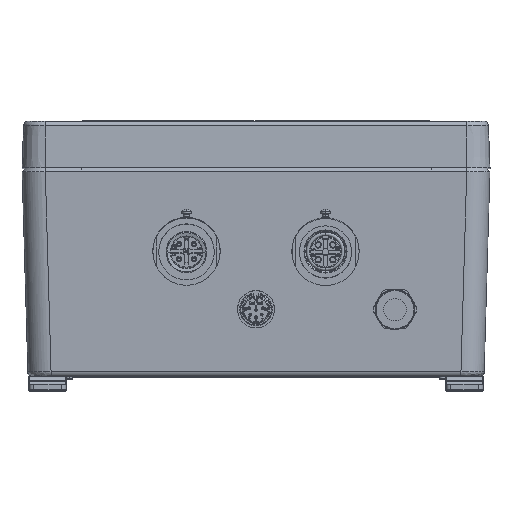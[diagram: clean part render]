
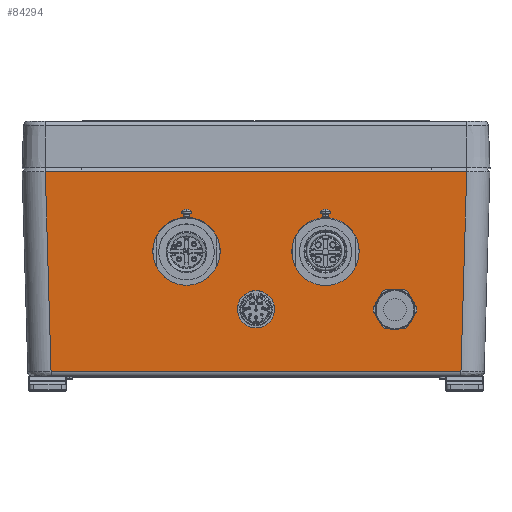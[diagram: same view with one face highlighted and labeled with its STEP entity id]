
A CAD part, top view. The second image highlights one B-rep face of the part: STEP entity #84294.
In plain terms, the highlighted planar face has unit normal (0, -0.029, 1).
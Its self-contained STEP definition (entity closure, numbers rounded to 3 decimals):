
#1652 = EDGE_LOOP ( 'NONE', ( #17042, #16756, #63218 ) ) ;
#4562 = FACE_BOUND ( 'NONE', #86400, .T. ) ;
#4637 = CARTESIAN_POINT ( 'NONE',  ( -39.367, -10.195, 113.637 ) ) ;
#5643 = DIRECTION ( 'NONE',  ( -1., 0., 0. ) ) ;
#5763 = DIRECTION ( 'NONE',  ( 0., -0.029, 1. ) ) ;
#5786 = EDGE_CURVE ( 'NONE', #7430, #57622, #13187, .T. ) ;
#6538 = LINE ( 'NONE', #27111, #33178 ) ;
#7430 = VERTEX_POINT ( 'NONE', #10497 ) ;
#7486 = EDGE_CURVE ( 'NONE', #71403, #98312, #10986, .T. ) ;
#7559 = ORIENTED_EDGE ( 'NONE', *, *, #21964, .F. ) ;
#7845 = ORIENTED_EDGE ( 'NONE', *, *, #7486, .F. ) ;
#10143 = VECTOR ( 'NONE', #5643, 1000. ) ;
#10497 = CARTESIAN_POINT ( 'NONE',  ( -8.415, 49.074, 115.35 ) ) ;
#10571 = DIRECTION ( 'NONE',  ( 0., -0.029, 1. ) ) ;
#10986 = CIRCLE ( 'NONE', #80813, 12.5 ) ;
#12875 = AXIS2_PLACEMENT_3D ( 'NONE', #4637, #81506, #92115 ) ;
#12971 = ORIENTED_EDGE ( 'NONE', *, *, #110350, .T. ) ;
#13033 = DIRECTION ( 'NONE',  ( 0.029, -0.999, -0.029 ) ) ;
#13187 = LINE ( 'NONE', #63081, #10143 ) ;
#14847 = CARTESIAN_POINT ( 'NONE',  ( -190.211, 45.335, 115.242 ) ) ;
#15676 = VERTEX_POINT ( 'NONE', #93986 ) ;
#16303 = DIRECTION ( 'NONE',  ( 0., -0.029, 1. ) ) ;
#16755 = CARTESIAN_POINT ( 'NONE',  ( -10.963, -37.185, 112.858 ) ) ;
#16756 = ORIENTED_EDGE ( 'NONE', *, *, #66028, .F. ) ;
#17042 = ORIENTED_EDGE ( 'NONE', *, *, #107319, .F. ) ;
#20697 = DIRECTION ( 'NONE',  ( 0., 1., 0.029 ) ) ;
#20997 = VERTEX_POINT ( 'NONE', #117326 ) ;
#21964 = EDGE_CURVE ( 'NONE', #103072, #56257, #106690, .T. ) ;
#23929 = FACE_BOUND ( 'NONE', #58270, .T. ) ;
#24027 = CARTESIAN_POINT ( 'NONE',  ( -99.367, -4.148, 113.812 ) ) ;
#24433 = CIRCLE ( 'NONE', #106249, 12.5 ) ;
#25084 = CARTESIAN_POINT ( 'NONE',  ( -99.367, -10.195, 113.637 ) ) ;
#26693 = EDGE_CURVE ( 'NONE', #56257, #103072, #70096, .T. ) ;
#27111 = CARTESIAN_POINT ( 'NONE',  ( -8.355, 51.161, 115.41 ) ) ;
#27173 = DIRECTION ( 'NONE',  ( 0., -0.029, 1. ) ) ;
#27986 = EDGE_CURVE ( 'NONE', #109515, #104769, #54187, .T. ) ;
#29017 = CIRCLE ( 'NONE', #110792, 5.1 ) ;
#32830 = AXIS2_PLACEMENT_3D ( 'NONE', #101876, #16303, #54400 ) ;
#33178 = VECTOR ( 'NONE', #44599, 1000. ) ;
#33350 = AXIS2_PLACEMENT_3D ( 'NONE', #52636, #118832, #52029 ) ;
#33778 = VECTOR ( 'NONE', #99901, 1000. ) ;
#35646 = DIRECTION ( 'NONE',  ( 0., 1., 0.029 ) ) ;
#37062 = DIRECTION ( 'NONE',  ( 0., -0.029, 1. ) ) ;
#38043 = ORIENTED_EDGE ( 'NONE', *, *, #26693, .F. ) ;
#38248 = EDGE_LOOP ( 'NONE', ( #12971, #83584, #49908, #55103 ) ) ;
#40722 = CARTESIAN_POINT ( 'NONE',  ( -129.367, 14.838, 114.361 ) ) ;
#42102 = AXIS2_PLACEMENT_3D ( 'NONE', #64422, #10571, #115424 ) ;
#42312 = CARTESIAN_POINT ( 'NONE',  ( -39.367, -15.293, 113.49 ) ) ;
#42889 = CARTESIAN_POINT ( 'NONE',  ( -129.367, 27.332, 114.722 ) ) ;
#43841 = DIRECTION ( 'NONE',  ( 0., 1., 0.029 ) ) ;
#44599 = DIRECTION ( 'NONE',  ( 0.029, 0.999, 0.029 ) ) ;
#44805 = VERTEX_POINT ( 'NONE', #42312 ) ;
#45627 = VERTEX_POINT ( 'NONE', #68921 ) ;
#47411 = AXIS2_PLACEMENT_3D ( 'NONE', #119416, #5763, #43841 ) ;
#49485 = ORIENTED_EDGE ( 'NONE', *, *, #72806, .F. ) ;
#49908 = ORIENTED_EDGE ( 'NONE', *, *, #94596, .T. ) ;
#52029 = DIRECTION ( 'NONE',  ( -1., 0., 0. ) ) ;
#52636 = CARTESIAN_POINT ( 'NONE',  ( 1.633, 50.873, 115.402 ) ) ;
#52774 = AXIS2_PLACEMENT_3D ( 'NONE', #79387, #37062, #20697 ) ;
#54187 = CIRCLE ( 'NONE', #42102, 12.5 ) ;
#54400 = DIRECTION ( 'NONE',  ( 0., 1., 0.029 ) ) ;
#55103 = ORIENTED_EDGE ( 'NONE', *, *, #120682, .T. ) ;
#55612 = CARTESIAN_POINT ( 'NONE',  ( -129.367, 2.343, 114. ) ) ;
#56257 = VERTEX_POINT ( 'NONE', #24027 ) ;
#57423 = VERTEX_POINT ( 'NONE', #104506 ) ;
#57622 = VERTEX_POINT ( 'NONE', #115393 ) ;
#58270 = EDGE_LOOP ( 'NONE', ( #7845, #92641 ) ) ;
#59498 = CARTESIAN_POINT ( 'NONE',  ( -99.367, -16.243, 113.463 ) ) ;
#60642 = CIRCLE ( 'NONE', #12875, 5.1 ) ;
#63081 = CARTESIAN_POINT ( 'NONE',  ( 1.633, 49.074, 115.35 ) ) ;
#63218 = ORIENTED_EDGE ( 'NONE', *, *, #69973, .F. ) ;
#64422 = CARTESIAN_POINT ( 'NONE',  ( -69.367, 14.838, 114.361 ) ) ;
#64644 = DIRECTION ( 'NONE',  ( 0., 1., 0.029 ) ) ;
#65000 = DIRECTION ( 'NONE',  ( 0., -0.029, 1. ) ) ;
#66028 = EDGE_CURVE ( 'NONE', #57423, #45627, #100625, .T. ) ;
#67899 = DIRECTION ( 'NONE',  ( 0., -0.029, 1. ) ) ;
#68921 = CARTESIAN_POINT ( 'NONE',  ( -44.467, -10.195, 113.637 ) ) ;
#69973 = EDGE_CURVE ( 'NONE', #44805, #57423, #60642, .T. ) ;
#70096 = CIRCLE ( 'NONE', #113917, 6.05 ) ;
#70139 = DIRECTION ( 'NONE',  ( 0., 1., 0.029 ) ) ;
#71163 = LINE ( 'NONE', #16755, #33778 ) ;
#71403 = VERTEX_POINT ( 'NONE', #42889 ) ;
#71975 = CARTESIAN_POINT ( 'NONE',  ( -69.367, 27.332, 114.722 ) ) ;
#72806 = EDGE_CURVE ( 'NONE', #104769, #109515, #105311, .T. ) ;
#75987 = EDGE_LOOP ( 'NONE', ( #38043, #7559 ) ) ;
#79387 = CARTESIAN_POINT ( 'NONE',  ( -99.367, -10.195, 113.637 ) ) ;
#80522 = LINE ( 'NONE', #14847, #112171 ) ;
#80813 = AXIS2_PLACEMENT_3D ( 'NONE', #82831, #27173, #64644 ) ;
#81426 = FACE_OUTER_BOUND ( 'NONE', #38248, .T. ) ;
#81506 = DIRECTION ( 'NONE',  ( 0., -0.029, 1. ) ) ;
#82831 = CARTESIAN_POINT ( 'NONE',  ( -129.367, 14.838, 114.361 ) ) ;
#83584 = ORIENTED_EDGE ( 'NONE', *, *, #5786, .T. ) ;
#84294 = ADVANCED_FACE ( 'NONE', ( #4562, #108317, #90173, #23929, #81426 ), #110118, .T. ) ;
#86400 = EDGE_LOOP ( 'NONE', ( #96521, #49485 ) ) ;
#88575 = DIRECTION ( 'NONE',  ( 0., 1., 0.029 ) ) ;
#88777 = CARTESIAN_POINT ( 'NONE',  ( -69.367, 2.343, 114. ) ) ;
#90120 = DIRECTION ( 'NONE',  ( 0., -0.029, 1. ) ) ;
#90173 = FACE_BOUND ( 'NONE', #1652, .T. ) ;
#92115 = DIRECTION ( 'NONE',  ( 0., 1., 0.029 ) ) ;
#92641 = ORIENTED_EDGE ( 'NONE', *, *, #104485, .F. ) ;
#93986 = CARTESIAN_POINT ( 'NONE',  ( -10.907, -37.185, 112.858 ) ) ;
#94596 = EDGE_CURVE ( 'NONE', #57622, #20997, #80522, .T. ) ;
#96521 = ORIENTED_EDGE ( 'NONE', *, *, #27986, .F. ) ;
#97888 = CARTESIAN_POINT ( 'NONE',  ( -39.367, -10.195, 113.637 ) ) ;
#98312 = VERTEX_POINT ( 'NONE', #55612 ) ;
#99901 = DIRECTION ( 'NONE',  ( 1., 0., 0. ) ) ;
#100625 = CIRCLE ( 'NONE', #32830, 5.1 ) ;
#101876 = CARTESIAN_POINT ( 'NONE',  ( -39.367, -10.195, 113.637 ) ) ;
#103072 = VERTEX_POINT ( 'NONE', #59498 ) ;
#104485 = EDGE_CURVE ( 'NONE', #98312, #71403, #24433, .T. ) ;
#104506 = CARTESIAN_POINT ( 'NONE',  ( -39.367, -5.097, 113.785 ) ) ;
#104769 = VERTEX_POINT ( 'NONE', #88777 ) ;
#105311 = CIRCLE ( 'NONE', #47411, 12.5 ) ;
#106249 = AXIS2_PLACEMENT_3D ( 'NONE', #40722, #90120, #70139 ) ;
#106690 = CIRCLE ( 'NONE', #52774, 6.05 ) ;
#107319 = EDGE_CURVE ( 'NONE', #45627, #44805, #29017, .T. ) ;
#108317 = FACE_BOUND ( 'NONE', #75987, .T. ) ;
#109515 = VERTEX_POINT ( 'NONE', #71975 ) ;
#110118 = PLANE ( 'NONE',  #33350 ) ;
#110350 = EDGE_CURVE ( 'NONE', #15676, #7430, #6538, .T. ) ;
#110792 = AXIS2_PLACEMENT_3D ( 'NONE', #97888, #67899, #88575 ) ;
#112171 = VECTOR ( 'NONE', #13033, 1000. ) ;
#113917 = AXIS2_PLACEMENT_3D ( 'NONE', #25084, #65000, #35646 ) ;
#115393 = CARTESIAN_POINT ( 'NONE',  ( -190.319, 49.074, 115.35 ) ) ;
#115424 = DIRECTION ( 'NONE',  ( 0., 1., 0.029 ) ) ;
#117326 = CARTESIAN_POINT ( 'NONE',  ( -187.827, -37.185, 112.858 ) ) ;
#118832 = DIRECTION ( 'NONE',  ( 0., -0.029, 1. ) ) ;
#119416 = CARTESIAN_POINT ( 'NONE',  ( -69.367, 14.838, 114.361 ) ) ;
#120682 = EDGE_CURVE ( 'NONE', #20997, #15676, #71163, .T. ) ;
